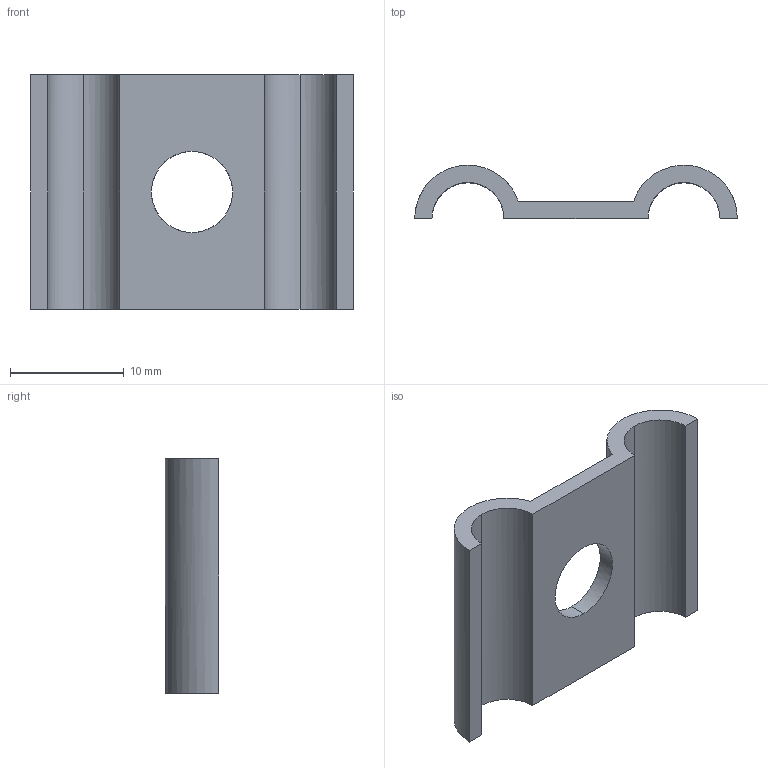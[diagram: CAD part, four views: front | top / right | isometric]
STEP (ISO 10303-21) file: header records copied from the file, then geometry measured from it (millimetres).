
FILE_DESCRIPTION(('TurboCAD Mac Pro'),'Build 980');
FILE_NAME('P6805.stp',' ',(''),(''),'ACIS Interop','IMSI','TurboCAD Mac Pro BY IMSI, INCORPORATED');
FILE_SCHEMA(('automotive_design'));
Length unit declared in the file: inch
Products named in the file (1): 1
Bounding box: 28.41 x 4.69 x 20.64 mm (x, y, z)
Volume: 1022.9 mm3; surface area: 1548.8 mm2
Topology: 1 solids, 1 shells, 18 faces, 48 edges, 32 vertices
Faces by surface type: bspline 12, plane 6
Entity records: 796 total; most frequent: CARTESIAN_POINT 255, ORIENTED_EDGE 96, EDGE_CURVE 48, DIRECTION 38, VERTEX_POINT 32, B_SPLINE_CURVE_WITH_KNOTS 24, LINE 24, VECTOR 24
